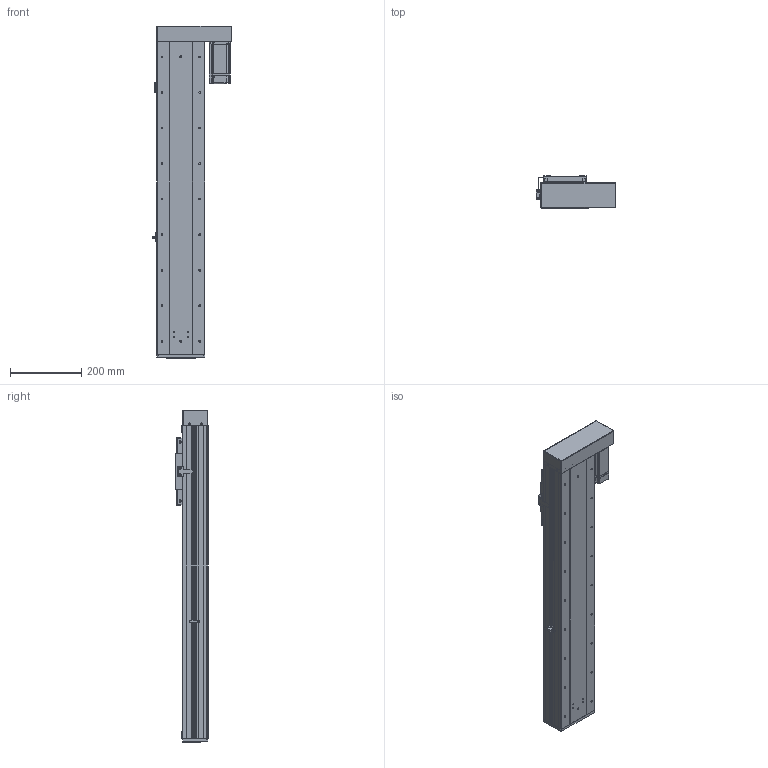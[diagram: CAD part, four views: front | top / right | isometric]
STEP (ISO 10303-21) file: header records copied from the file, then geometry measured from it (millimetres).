
FILE_DESCRIPTION (( 'STEP AP203' ), '1' );
FILE_NAME ('RY140F-L2020-300-RK.SLDASM_600.step', '2021-03-02T08:50:22', ( '盈信电脑' ), ( '东莞市道滘镇水果街19号' ), 'SwSTEP 2.0', 'SolidWorks 2012', '' );
FILE_SCHEMA (( 'CONFIG_CONTROL_DESIGN' ));
Products named in the file (19): RY140F-詩湍幗謫粣; RY140F-后盖板(铝件）; RY140F-直连型材铝滑块(16丝杆); RY100F-詩湍揤踡謫; RY140F-300-RK蛌殏詩湍_600; RY140F-滅鳥奻裔; RY140F-直连型材铝滑块连接座; RY140F-300-RK倰第菁釱_600; RY140F-300-RK倰第奻裔啣_600; RY140F-转折折电机座（7001）; RY140F-L2020-300-RK.SLDASM_600; RY140F-左右折电机安装板(400W M5); RY140F-酘衵殏萇儂欶(400W); 覜茼ん672; RY140F-672覜茼んえ; RY140F-詩湍揤え; 侐源滅袉蝶; 15; 侂狟400W侜督萇儂
Assembly tree (23 placements, depth 3):
  RY140F-L2020-300-RK.SLDASM_600
    RY140F-300-RK倰第菁釱_600
    RY140F-300-RK倰第奻裔啣_600  x2
    RY140F-300-RK蛌殏詩湍_600
    RY140F-直连型材铝滑块连接座
    RY140F-滅鳥奻裔
    RY140F-詩湍幗謫粣
    RY100F-詩湍揤踡謫
    RY140F-直连型材铝滑块(16丝杆)
    RY140F-后盖板(铝件）
    侂狟400W侜督萇儂
      15
    覜茼ん672
    RY140F-672覜茼んえ
    RY140F-詩湍揤え  x2
    侐源滅袉蝶  x4
    RY140F-转折折电机座（7001）
    RY140F-左右折电机安装板(400W M5)
    RY140F-酘衵殏萇儂欶(400W)
Bounding box: 224.7 x 91 x 934 mm (x, y, z)
Volume: 3795579 mm3; surface area: 1350662.3 mm2
Topology: 22 solids, 22 shells, 2033 faces, 5545 edges, 3518 vertices
Faces by surface type: cylinder 988, plane 789, cone 226, bspline 26, torus 4
Entity records: 64183 total; most frequent: CARTESIAN_POINT 13575, DIRECTION 10282, ORIENTED_EDGE 9978, EDGE_CURVE 4989, AXIS2_PLACEMENT_3D 3689, VERTEX_POINT 3258, LINE 2904, VECTOR 2904
